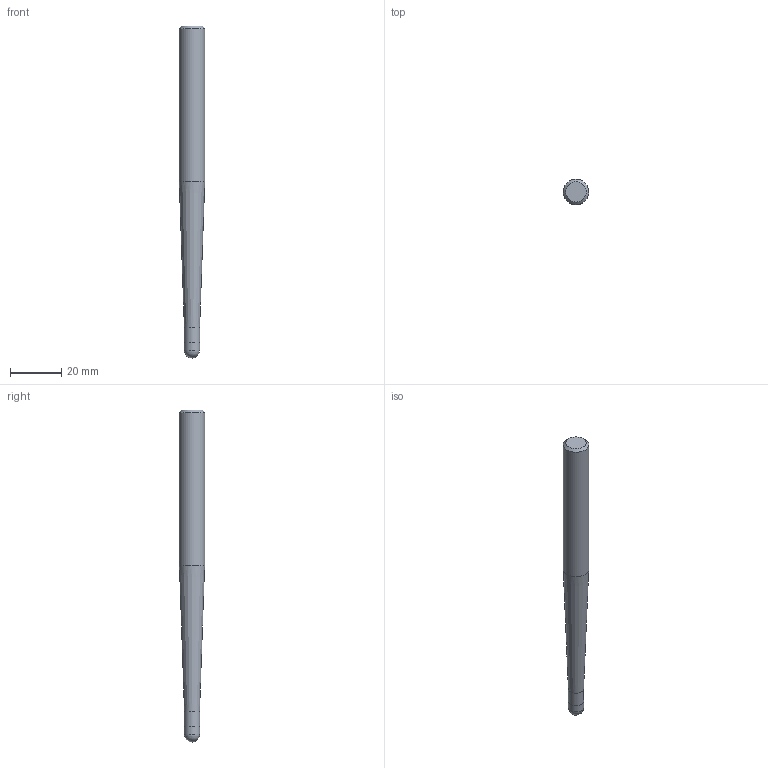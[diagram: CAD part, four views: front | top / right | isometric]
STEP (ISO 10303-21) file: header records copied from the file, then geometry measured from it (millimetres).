
FILE_DESCRIPTION((''),'2;1');
FILE_NAME('C:\Users\nsx150\AppData\Local\Temp\Mastercam 2021\SNAKH10GOD\TEMP.step','2021-10-21T13:34:01',(''),(''),'STEP Write','Mastercam 2021 ... CNC Software, Inc.','');
FILE_SCHEMA(('AUTOMOTIVE_DESIGN'));
Length unit declared in the file: millimetre
Products named in the file (1): None
Bounding box: 10 x 10 x 130 mm (x, y, z)
Volume: 7996.2 mm3; surface area: 3687.2 mm2
Topology: 2 solids, 2 shells, 9 faces, 14 edges, 8 vertices
Faces by surface type: plane 3, cylinder 3, cone 2, sphere 1
Full cylindrical faces by diameter (mm): 5.98 x1, 6 x1, 10 x1
Entity records: 211 total; most frequent: DIRECTION 36, CARTESIAN_POINT 25, AXIS2_PLACEMENT_3D 18, ORIENTED_EDGE 14, EDGE_LOOP 14, STYLED_ITEM 12, ADVANCED_FACE 9, FACE_BOUND 8
